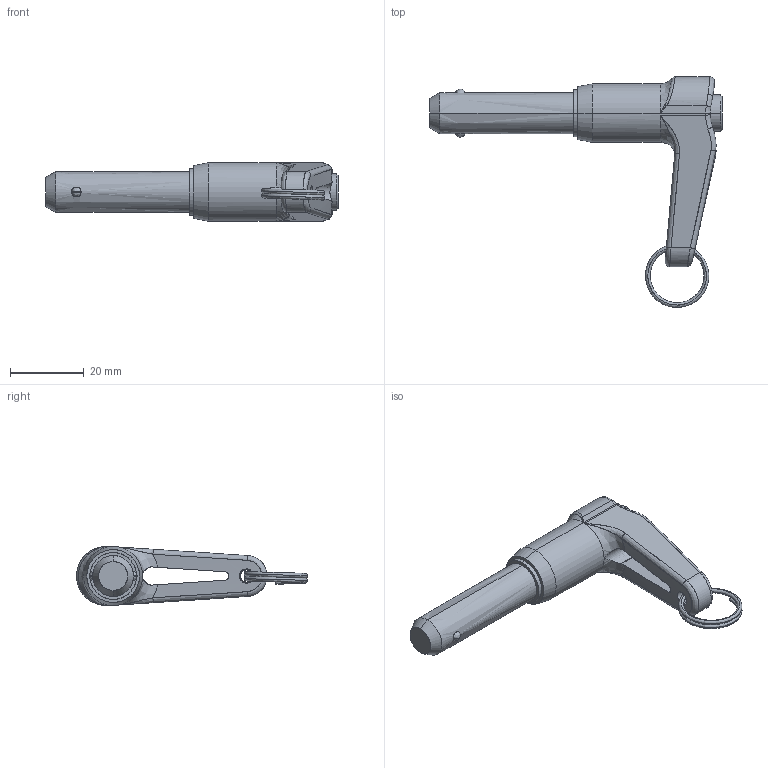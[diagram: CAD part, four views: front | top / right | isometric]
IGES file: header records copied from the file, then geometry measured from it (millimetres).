
Start section: SolidWorks IGES file using analytic representation for surfaces
Global section: file name: C:\Documents and Settings\IANO\My Documents\Wix and Auto CAD Work\CAD Models\Parametric Models\Wix Models\30000\33620_v2\33620_v2_20160606_IGES\33620.E012.igs; native system: SolidWorks 2009; preprocessor: SolidWorks 2009; author: IANO; date: 160615.130040; units: inch
Bounding box: 79.34 x 62.51 x 15.88 mm (x, y, z)
Surface area: 8144.8 mm2 (no closed solid volume)
Topology: 0 solids, 0 shells, 83 faces, 1221 edges, 1218 vertices
Faces by surface type: bspline 53, revolution 30
